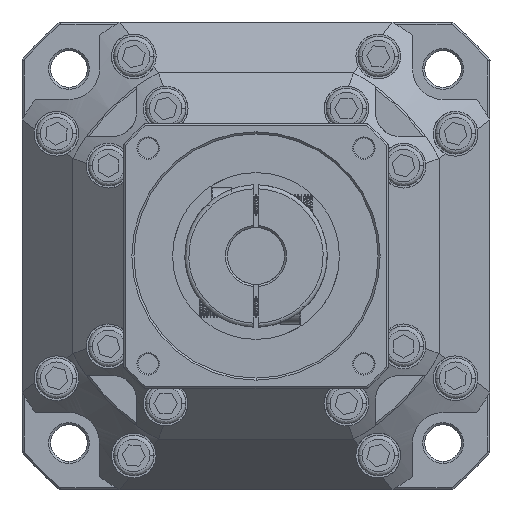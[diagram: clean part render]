
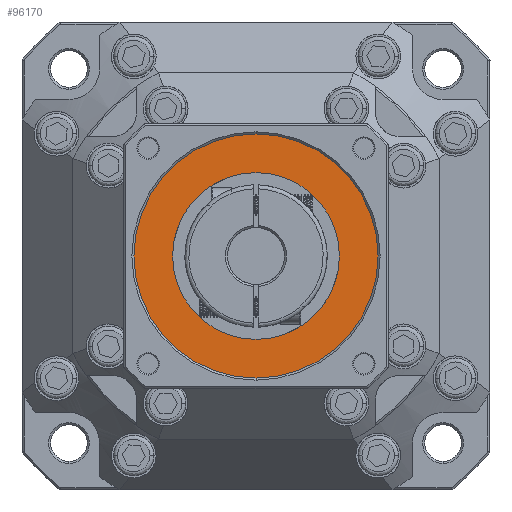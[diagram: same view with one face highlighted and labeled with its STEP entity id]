
A CAD part, front view. The second image highlights one B-rep face of the part: STEP entity #96170.
In plain terms, the highlighted planar face has unit normal (0, 1, 0).
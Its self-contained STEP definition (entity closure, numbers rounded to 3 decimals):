
#412 = VERTEX_POINT ( 'NONE', #79467 ) ;
#1879 = DIRECTION ( 'NONE',  ( 0., 0., -1. ) ) ;
#3632 = EDGE_LOOP ( 'NONE', ( #45798, #18858 ) ) ;
#6804 = DIRECTION ( 'NONE',  ( 0., 0., 1. ) ) ;
#7077 = ORIENTED_EDGE ( 'NONE', *, *, #24860, .T. ) ;
#8894 = FACE_BOUND ( 'NONE', #3632, .T. ) ;
#9834 = CARTESIAN_POINT ( 'NONE',  ( 0., -134.611, 0. ) ) ;
#11841 = AXIS2_PLACEMENT_3D ( 'NONE', #91155, #40835, #99580 ) ;
#13561 = VERTEX_POINT ( 'NONE', #71073 ) ;
#18296 = DIRECTION ( 'NONE',  ( 0., 0., -1. ) ) ;
#18858 = ORIENTED_EDGE ( 'NONE', *, *, #100087, .T. ) ;
#21546 = CARTESIAN_POINT ( 'NONE',  ( 0., -134.611, 30. ) ) ;
#21783 = CARTESIAN_POINT ( 'NONE',  ( 0., -134.611, 20.5 ) ) ;
#24860 = EDGE_CURVE ( 'NONE', #75647, #13561, #44456, .T. ) ;
#26436 = CIRCLE ( 'NONE', #33335, 20.5 ) ;
#33335 = AXIS2_PLACEMENT_3D ( 'NONE', #100279, #50039, #108686 ) ;
#33952 = FACE_OUTER_BOUND ( 'NONE', #42172, .T. ) ;
#34045 = EDGE_CURVE ( 'NONE', #13561, #75647, #101501, .T. ) ;
#40835 = DIRECTION ( 'NONE',  ( 0., -1., 0. ) ) ;
#42172 = EDGE_LOOP ( 'NONE', ( #70808, #7077 ) ) ;
#44456 = CIRCLE ( 'NONE', #52197, 30. ) ;
#45798 = ORIENTED_EDGE ( 'NONE', *, *, #82803, .T. ) ;
#50039 = DIRECTION ( 'NONE',  ( 0., -1., 0. ) ) ;
#52197 = AXIS2_PLACEMENT_3D ( 'NONE', #102510, #52296, #1879 ) ;
#52296 = DIRECTION ( 'NONE',  ( 0., 1., 0. ) ) ;
#57234 = DIRECTION ( 'NONE',  ( 0., -1., 0. ) ) ;
#57408 = PLANE ( 'NONE',  #11841 ) ;
#68660 = DIRECTION ( 'NONE',  ( 0., 1., 0. ) ) ;
#69045 = AXIS2_PLACEMENT_3D ( 'NONE', #107421, #57234, #6804 ) ;
#70808 = ORIENTED_EDGE ( 'NONE', *, *, #34045, .T. ) ;
#71073 = CARTESIAN_POINT ( 'NONE',  ( 0., -134.611, -30. ) ) ;
#75647 = VERTEX_POINT ( 'NONE', #21546 ) ;
#79467 = CARTESIAN_POINT ( 'NONE',  ( 0., -134.611, -20.5 ) ) ;
#82146 = VERTEX_POINT ( 'NONE', #21783 ) ;
#82803 = EDGE_CURVE ( 'NONE', #82146, #412, #92589, .T. ) ;
#91155 = CARTESIAN_POINT ( 'NONE',  ( -30.36, -134.611, -30.36 ) ) ;
#92589 = CIRCLE ( 'NONE', #69045, 20.5 ) ;
#96170 = ADVANCED_FACE ( 'NONE', ( #8894, #33952 ), #57408, .F. ) ;
#99580 = DIRECTION ( 'NONE',  ( 1., 0., 0. ) ) ;
#100087 = EDGE_CURVE ( 'NONE', #412, #82146, #26436, .T. ) ;
#100279 = CARTESIAN_POINT ( 'NONE',  ( 0., -134.611, 0. ) ) ;
#101501 = CIRCLE ( 'NONE', #101961, 30. ) ;
#101961 = AXIS2_PLACEMENT_3D ( 'NONE', #9834, #68660, #18296 ) ;
#102510 = CARTESIAN_POINT ( 'NONE',  ( 0., -134.611, 0. ) ) ;
#107421 = CARTESIAN_POINT ( 'NONE',  ( 0., -134.611, 0. ) ) ;
#108686 = DIRECTION ( 'NONE',  ( 0., 0., 1. ) ) ;
